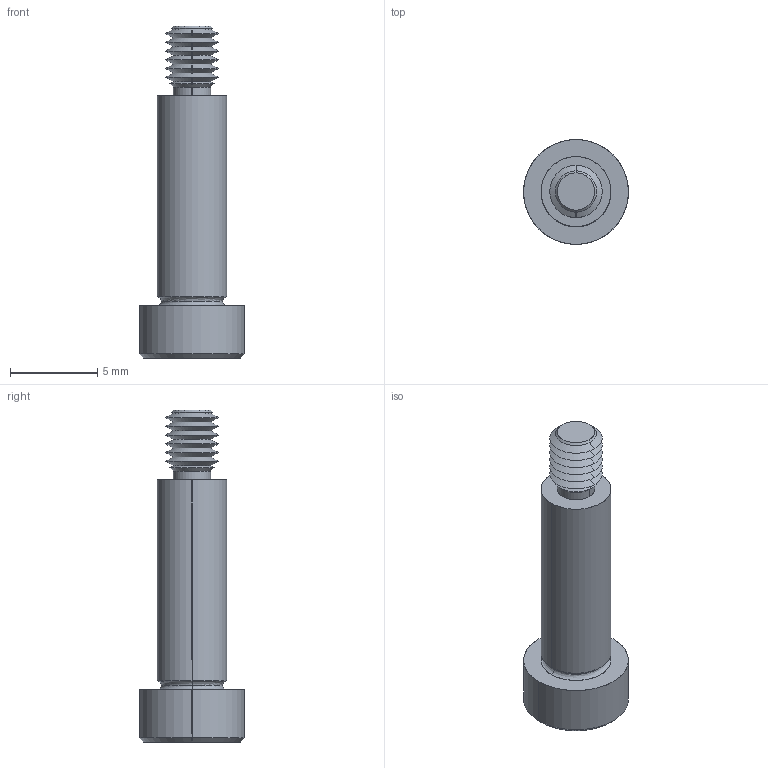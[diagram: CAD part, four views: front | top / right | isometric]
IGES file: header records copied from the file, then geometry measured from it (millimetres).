
Start section: SolidWorks IGES file using analytic representation for surfaces
Global section: file name: C:\Users\IanO\Documents\Temp Folder\GENERAL\SCREW REVISION\P0130_v2\P0130.T5_v2_20220106_IGES\P0130.040-012-T5.igs; native system: SolidWorks 2019; preprocessor: SolidWorks 2019; author: IanO; date: 220106.220715; units: millimetre
Bounding box: 6 x 6 x 19 mm (x, y, z)
Surface area: 335.7 mm2 (no closed solid volume)
Topology: 0 solids, 0 shells, 68 faces, 520 edges, 518 vertices
Faces by surface type: revolution 48, bspline 20
